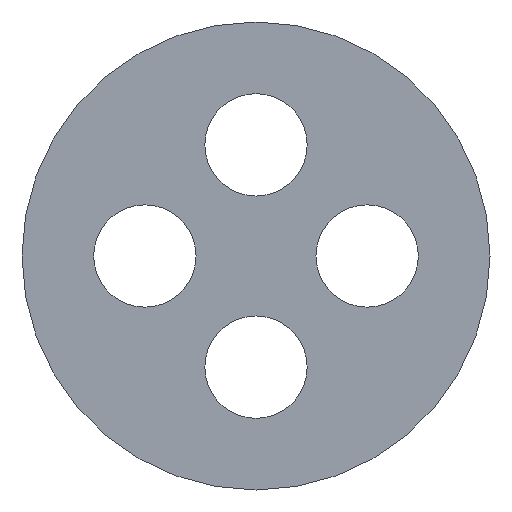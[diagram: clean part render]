
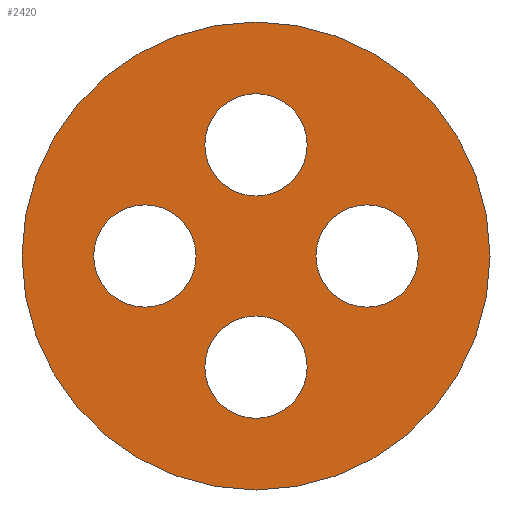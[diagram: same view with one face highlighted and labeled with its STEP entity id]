
A CAD part, left-side view. The second image highlights one B-rep face of the part: STEP entity #2420.
In plain terms, the highlighted planar face has unit normal (-1, 0, 0).
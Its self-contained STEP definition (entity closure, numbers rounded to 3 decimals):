
#1490=CARTESIAN_POINT('',(60.046,56.75,
0.));
#1500=VERTEX_POINT('',#1490);
#1580=CARTESIAN_POINT('',(60.046,40.75,0.));
#1590=VERTEX_POINT('',#1580);
#1620=CARTESIAN_POINT('',(60.046,48.75,0.));
#1630=DIRECTION('',(-1.,0.,0.));
#1640=DIRECTION('',(0.,1.,0.));
#1650=AXIS2_PLACEMENT_3D('',#1620,#1630,#1640);
#1660=CIRCLE('',#1650,8.);
#1670=EDGE_CURVE('',#1590,#1500,#1660,.T.);
#1720=CARTESIAN_POINT('',(60.046,52.75,0.));
#1730=DIRECTION('',(1.,0.,0.));
#1740=DIRECTION('',(0.,-1.,0.));
#1750=AXIS2_PLACEMENT_3D('',#1720,#1730,#1740);
#1760=PLANE('',#1750);
#1770=EDGE_CURVE('',#1500,#1590,#1660,.T.);
#1780=ORIENTED_EDGE('',*,*,#1770,.T.);
#1790=ORIENTED_EDGE('',*,*,#1670,.T.);
#1800=EDGE_LOOP('',(#1790,#1780));
#1810=FACE_OUTER_BOUND('',#1800,.T.);
#1820=CARTESIAN_POINT('',(60.046,48.75,
-3.8));
#1830=DIRECTION('',(1.,0.,0.));
#1840=DIRECTION('',(0.,1.,0.));
#1850=AXIS2_PLACEMENT_3D('',#1820,#1830,#1840);
#1860=CIRCLE('',#1850,1.75);
#1870=CARTESIAN_POINT('',(60.046,50.5,
-3.8));
#1880=VERTEX_POINT('',#1870);
#1890=CARTESIAN_POINT('',(60.046,47.,
-3.8));
#1900=VERTEX_POINT('',#1890);
#1910=EDGE_CURVE('',#1880,#1900,#1860,.T.);
#1920=ORIENTED_EDGE('',*,*,#1910,.T.);
#1930=EDGE_CURVE('',#1900,#1880,#1860,.T.);
#1940=ORIENTED_EDGE('',*,*,#1930,.T.);
#1950=EDGE_LOOP('',(#1940,#1920));
#1960=FACE_BOUND('',#1950,.T.);
#1970=CARTESIAN_POINT('',(60.046,52.55,
0.));
#1980=DIRECTION('',(1.,0.,0.));
#1990=DIRECTION('',(0.,1.,0.));
#2000=AXIS2_PLACEMENT_3D('',#1970,#1980,#1990);
#2010=CIRCLE('',#2000,1.75);
#2020=CARTESIAN_POINT('',(60.046,54.3,
0.));
#2030=VERTEX_POINT('',#2020);
#2040=CARTESIAN_POINT('',(60.046,50.8,
0.));
#2050=VERTEX_POINT('',#2040);
#2060=EDGE_CURVE('',#2030,#2050,#2010,.T.);
#2070=ORIENTED_EDGE('',*,*,#2060,.T.);
#2080=EDGE_CURVE('',#2050,#2030,#2010,.T.);
#2090=ORIENTED_EDGE('',*,*,#2080,.T.);
#2100=EDGE_LOOP('',(#2090,#2070));
#2110=FACE_BOUND('',#2100,.T.);
#2120=CARTESIAN_POINT('',(60.046,44.95,
0.));
#2130=DIRECTION('',(1.,0.,0.));
#2140=DIRECTION('',(0.,1.,0.));
#2150=AXIS2_PLACEMENT_3D('',#2120,#2130,#2140);
#2160=CIRCLE('',#2150,1.75);
#2170=CARTESIAN_POINT('',(60.046,46.7,
0.));
#2180=VERTEX_POINT('',#2170);
#2190=CARTESIAN_POINT('',(60.046,43.2,
0.));
#2200=VERTEX_POINT('',#2190);
#2210=EDGE_CURVE('',#2180,#2200,#2160,.T.);
#2220=ORIENTED_EDGE('',*,*,#2210,.T.);
#2230=EDGE_CURVE('',#2200,#2180,#2160,.T.);
#2240=ORIENTED_EDGE('',*,*,#2230,.T.);
#2250=EDGE_LOOP('',(#2240,#2220));
#2260=FACE_BOUND('',#2250,.T.);
#2270=CARTESIAN_POINT('',(60.046,48.75,
3.8));
#2280=DIRECTION('',(1.,0.,0.));
#2290=DIRECTION('',(0.,1.,0.));
#2300=AXIS2_PLACEMENT_3D('',#2270,#2280,#2290);
#2310=CIRCLE('',#2300,1.75);
#2320=CARTESIAN_POINT('',(60.046,50.5,
3.8));
#2330=VERTEX_POINT('',#2320);
#2340=CARTESIAN_POINT('',(60.046,47.,
3.8));
#2350=VERTEX_POINT('',#2340);
#2360=EDGE_CURVE('',#2330,#2350,#2310,.T.);
#2370=ORIENTED_EDGE('',*,*,#2360,.T.);
#2380=EDGE_CURVE('',#2350,#2330,#2310,.T.);
#2390=ORIENTED_EDGE('',*,*,#2380,.T.);
#2400=EDGE_LOOP('',(#2390,#2370));
#2410=FACE_BOUND('',#2400,.T.);
#2420=ADVANCED_FACE('',(#1810,#1960,#2110,#2260,#2410),#1760,.F.);
